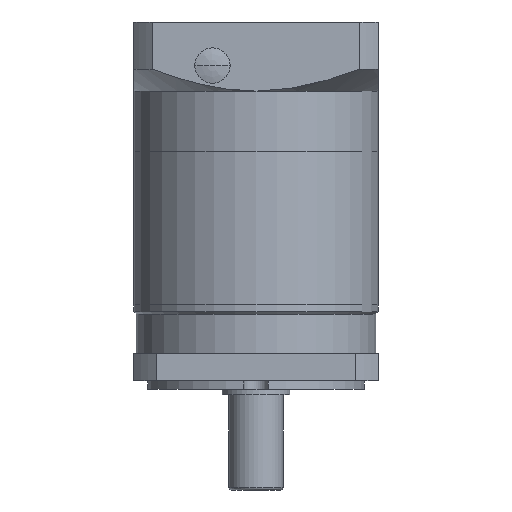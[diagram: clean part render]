
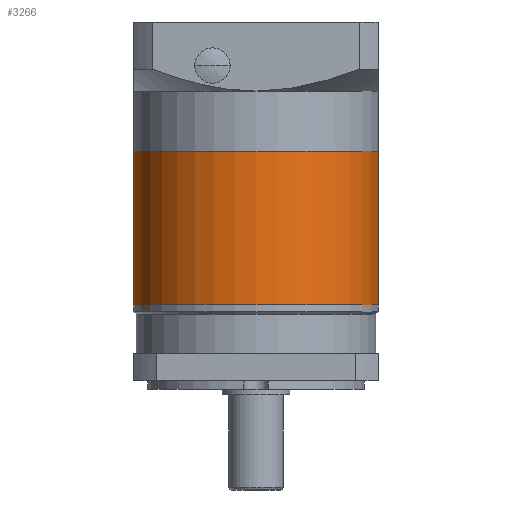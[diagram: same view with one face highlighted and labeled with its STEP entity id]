
A CAD part, front view. The second image highlights one B-rep face of the part: STEP entity #3266.
In plain terms, the highlighted cylindrical face has radius 45 mm (diameter 90 mm), a full revolution.
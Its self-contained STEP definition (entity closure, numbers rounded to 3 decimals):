
#3266=ADVANCED_FACE('',(#4968,#4969),#3572,.T.);
#3572=CYLINDRICAL_SURFACE('',#16617,45.);
#4565=CIRCLE('',#16608,45.);
#4571=CIRCLE('',#16615,45.);
#4968=FACE_BOUND('',#5944,.T.);
#4969=FACE_BOUND('',#5945,.T.);
#5944=EDGE_LOOP('',(#10146));
#5945=EDGE_LOOP('',(#10147));
#10146=ORIENTED_EDGE('',*,*,#14169,.T.);
#10147=ORIENTED_EDGE('',*,*,#14175,.T.);
#11980=VERTEX_POINT('',#31466);
#11986=VERTEX_POINT('',#31479);
#14169=EDGE_CURVE('',#11980,#11980,#4565,.T.);
#14175=EDGE_CURVE('',#11986,#11986,#4571,.T.);
#16608=AXIS2_PLACEMENT_3D('',#31465,#20620,#20621);
#16615=AXIS2_PLACEMENT_3D('',#31478,#20634,#20635);
#16617=AXIS2_PLACEMENT_3D('',#31481,#20638,#20639);
#20620=DIRECTION('',(0.,0.,1.));
#20621=DIRECTION('',(1.,0.,0.));
#20634=DIRECTION('',(0.,0.,-1.));
#20635=DIRECTION('',(1.,0.,0.));
#20638=DIRECTION('',(0.,0.,-1.));
#20639=DIRECTION('',(1.,0.,0.));
#31465=CARTESIAN_POINT('',(-0.042,-1.945,31.));
#31466=CARTESIAN_POINT('',(44.958,-1.945,31.));
#31478=CARTESIAN_POINT('',(-0.042,-1.945,87.5));
#31479=CARTESIAN_POINT('',(44.958,-1.945,87.5));
#31481=CARTESIAN_POINT('',(-0.042,-1.945,64.5));
